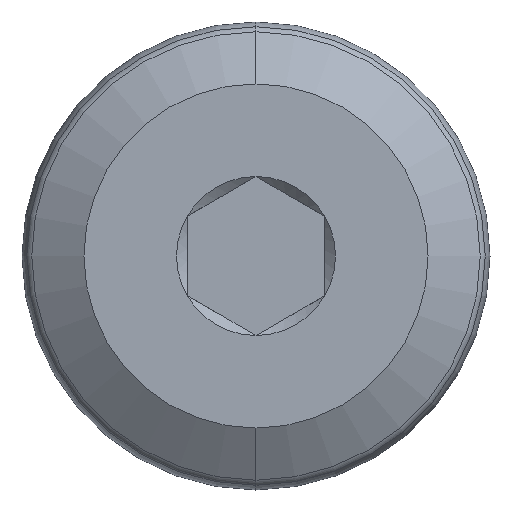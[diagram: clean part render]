
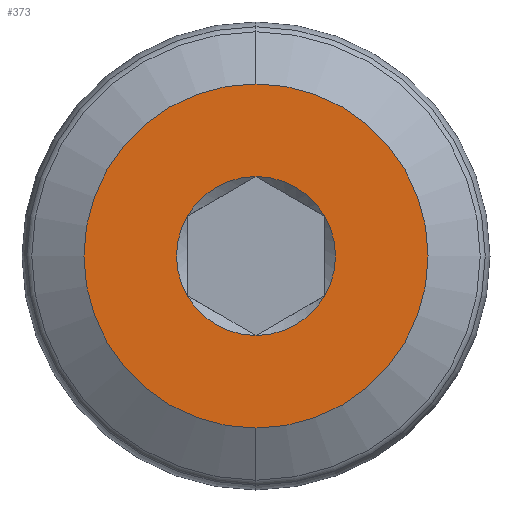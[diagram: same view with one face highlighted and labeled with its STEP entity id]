
A CAD part, left-side view. The second image highlights one B-rep face of the part: STEP entity #373.
In plain terms, the highlighted planar face has unit normal (-1, 0, 0).
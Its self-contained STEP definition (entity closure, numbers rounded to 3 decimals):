
#4 = CIRCLE ( 'NONE', #145, 1.155 ) ;
#24 = VERTEX_POINT ( 'NONE', #749 ) ;
#26 = DIRECTION ( 'NONE',  ( 1., 0., 0. ) ) ;
#37 = ORIENTED_EDGE ( 'NONE', *, *, #280, .T. ) ;
#43 = CARTESIAN_POINT ( 'NONE',  ( 0., 0., 2.5 ) ) ;
#49 = CARTESIAN_POINT ( 'NONE',  ( 0., -1., -0.577 ) ) ;
#53 = ORIENTED_EDGE ( 'NONE', *, *, #112, .T. ) ;
#55 = CARTESIAN_POINT ( 'NONE',  ( 0., 1., 0.577 ) ) ;
#64 = CARTESIAN_POINT ( 'NONE',  ( 0., 0., 0. ) ) ;
#82 = VERTEX_POINT ( 'NONE', #256 ) ;
#86 = DIRECTION ( 'NONE',  ( 1., 0., 0. ) ) ;
#102 = ORIENTED_EDGE ( 'NONE', *, *, #116, .T. ) ;
#112 = EDGE_CURVE ( 'NONE', #231, #483, #634, .T. ) ;
#116 = EDGE_CURVE ( 'NONE', #335, #528, #328, .T. ) ;
#124 = EDGE_CURVE ( 'NONE', #24, #269, #540, .T. ) ;
#145 = AXIS2_PLACEMENT_3D ( 'NONE', #711, #287, #217 ) ;
#151 = EDGE_CURVE ( 'NONE', #424, #231, #762, .T. ) ;
#152 = DIRECTION ( 'NONE',  ( 1., 0., 0. ) ) ;
#164 = CIRCLE ( 'NONE', #238, 2.5 ) ;
#172 = DIRECTION ( 'NONE',  ( 1., 0., 0. ) ) ;
#176 = AXIS2_PLACEMENT_3D ( 'NONE', #736, #559, #653 ) ;
#206 = CARTESIAN_POINT ( 'NONE',  ( 0., 0., -1.155 ) ) ;
#212 = CARTESIAN_POINT ( 'NONE',  ( 0., 0., 0. ) ) ;
#217 = DIRECTION ( 'NONE',  ( 0., 0., -1. ) ) ;
#231 = VERTEX_POINT ( 'NONE', #49 ) ;
#235 = ORIENTED_EDGE ( 'NONE', *, *, #124, .F. ) ;
#238 = AXIS2_PLACEMENT_3D ( 'NONE', #626, #86, #336 ) ;
#256 = CARTESIAN_POINT ( 'NONE',  ( 0., 1., -0.577 ) ) ;
#262 = CIRCLE ( 'NONE', #330, 1.155 ) ;
#269 = VERTEX_POINT ( 'NONE', #43 ) ;
#273 = ORIENTED_EDGE ( 'NONE', *, *, #151, .T. ) ;
#280 = EDGE_CURVE ( 'NONE', #528, #424, #4, .T. ) ;
#287 = DIRECTION ( 'NONE',  ( 1., 0., 0. ) ) ;
#301 = PLANE ( 'NONE',  #176 ) ;
#311 = DIRECTION ( 'NONE',  ( 0., 0., -1. ) ) ;
#325 = CARTESIAN_POINT ( 'NONE',  ( 0., 0., 0. ) ) ;
#328 = CIRCLE ( 'NONE', #368, 1.155 ) ;
#330 = AXIS2_PLACEMENT_3D ( 'NONE', #349, #172, #412 ) ;
#335 = VERTEX_POINT ( 'NONE', #55 ) ;
#336 = DIRECTION ( 'NONE',  ( 0., 0., -1. ) ) ;
#342 = DIRECTION ( 'NONE',  ( 0., 0., -1. ) ) ;
#349 = CARTESIAN_POINT ( 'NONE',  ( 0., 0., 0. ) ) ;
#352 = EDGE_LOOP ( 'NONE', ( #102, #37, #273, #53, #782, #592 ) ) ;
#355 = AXIS2_PLACEMENT_3D ( 'NONE', #325, #26, #510 ) ;
#368 = AXIS2_PLACEMENT_3D ( 'NONE', #671, #614, #684 ) ;
#373 = ADVANCED_FACE ( 'NONE', ( #740, #479 ), #301, .T. ) ;
#381 = CARTESIAN_POINT ( 'NONE',  ( 0., -1., 0.577 ) ) ;
#384 = ORIENTED_EDGE ( 'NONE', *, *, #545, .F. ) ;
#412 = DIRECTION ( 'NONE',  ( 0., 0., -1. ) ) ;
#424 = VERTEX_POINT ( 'NONE', #381 ) ;
#439 = EDGE_LOOP ( 'NONE', ( #235, #384 ) ) ;
#460 = AXIS2_PLACEMENT_3D ( 'NONE', #212, #152, #568 ) ;
#479 = FACE_OUTER_BOUND ( 'NONE', #439, .T. ) ;
#483 = VERTEX_POINT ( 'NONE', #206 ) ;
#510 = DIRECTION ( 'NONE',  ( 0., 0., -1. ) ) ;
#516 = AXIS2_PLACEMENT_3D ( 'NONE', #64, #735, #311 ) ;
#517 = CARTESIAN_POINT ( 'NONE',  ( 0., 0., 1.155 ) ) ;
#528 = VERTEX_POINT ( 'NONE', #517 ) ;
#540 = CIRCLE ( 'NONE', #355, 2.5 ) ;
#545 = EDGE_CURVE ( 'NONE', #269, #24, #164, .T. ) ;
#559 = DIRECTION ( 'NONE',  ( -1., 0., 0. ) ) ;
#561 = AXIS2_PLACEMENT_3D ( 'NONE', #565, #691, #342 ) ;
#565 = CARTESIAN_POINT ( 'NONE',  ( 0., 0., 0. ) ) ;
#568 = DIRECTION ( 'NONE',  ( 0., 0., -1. ) ) ;
#592 = ORIENTED_EDGE ( 'NONE', *, *, #692, .T. ) ;
#614 = DIRECTION ( 'NONE',  ( 1., 0., 0. ) ) ;
#626 = CARTESIAN_POINT ( 'NONE',  ( 0., 0., 0. ) ) ;
#634 = CIRCLE ( 'NONE', #460, 1.155 ) ;
#653 = DIRECTION ( 'NONE',  ( 0., 0., 1. ) ) ;
#671 = CARTESIAN_POINT ( 'NONE',  ( 0., 0., 0. ) ) ;
#684 = DIRECTION ( 'NONE',  ( 0., 0., -1. ) ) ;
#691 = DIRECTION ( 'NONE',  ( 1., 0., 0. ) ) ;
#692 = EDGE_CURVE ( 'NONE', #82, #335, #262, .T. ) ;
#703 = CIRCLE ( 'NONE', #516, 1.155 ) ;
#711 = CARTESIAN_POINT ( 'NONE',  ( 0., 0., 0. ) ) ;
#735 = DIRECTION ( 'NONE',  ( 1., 0., 0. ) ) ;
#736 = CARTESIAN_POINT ( 'NONE',  ( 0., 2.5, 0. ) ) ;
#740 = FACE_BOUND ( 'NONE', #352, .T. ) ;
#743 = EDGE_CURVE ( 'NONE', #483, #82, #703, .T. ) ;
#749 = CARTESIAN_POINT ( 'NONE',  ( 0., 0., -2.5 ) ) ;
#762 = CIRCLE ( 'NONE', #561, 1.155 ) ;
#782 = ORIENTED_EDGE ( 'NONE', *, *, #743, .T. ) ;
